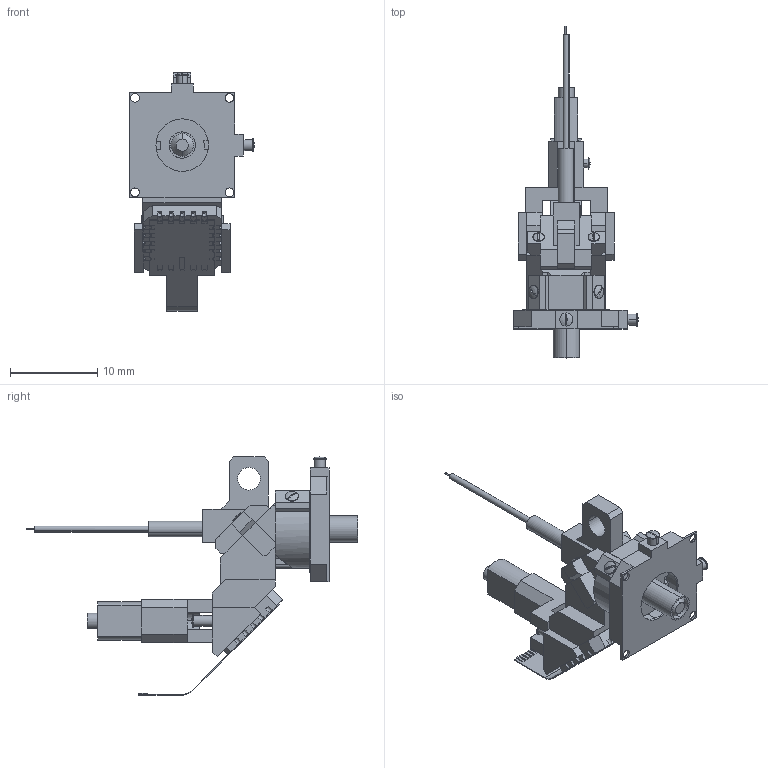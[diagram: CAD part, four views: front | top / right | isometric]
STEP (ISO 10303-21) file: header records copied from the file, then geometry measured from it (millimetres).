
FILE_DESCRIPTION (( 'STEP AP214' ), '1' );
FILE_NAME ('MINI2P_noTLens.STEP', '2022-09-28T07:59:19', ( '' ), ( '' ), 'SwSTEP 2.0', 'SolidWorks 2021', '' );
FILE_SCHEMA (( 'AUTOMOTIVE_DESIGN' ));
Length unit declared in the file: inch
Products named in the file (17): 103-ScopeBody P2 ; 30-TFB; 33-GlassFlange; 43-CollimatingLens___; 104-ScopeBody P3 ___; HC-920 Assembly; Scopebody adapter_V2_lateralshifting_ML-0000_AP0000___; 108-M1.2; MINI2P_noTLens; 102-ScopeBody P1 ___; 115-MEMS2000Hz; 109-ScanLens_D0166; 117-MEMSPCB; 108-M1.6; 111-Objective_D0213; 26-CollimatorHolder___; 106-Baseplate
Assembly tree (24 placements, depth 3):
  MINI2P_noTLens
    102-ScopeBody P1 ___
    109-ScanLens_D0166
    111-Objective_D0213
    104-ScopeBody P3 ___
    115-MEMS2000Hz
    103-ScopeBody P2 
    30-TFB
    117-MEMSPCB
    HC-920 Assembly
      33-GlassFlange
      26-CollimatorHolder___
      43-CollimatingLens___
    108-M1.2  x4
    108-M1.6  x6
    106-Baseplate
    Scopebody adapter_V2_lateralshifting_ML-0000_AP0000___
Bounding box: 14.25 x 37.94 x 27.23 mm (x, y, z)
Volume: 1196.4 mm3; surface area: 4075 mm2
Topology: 33 solids, 41 shells, 1135 faces, 3042 edges, 2001 vertices
Faces by surface type: plane 741, cylinder 290, cone 48, sphere 26, bspline 26, torus 4
Entity records: 43231 total; most frequent: CARTESIAN_POINT 7773, ORIENTED_EDGE 5648, DIRECTION 5267, EDGE_CURVE 2828, LINE 2095, VECTOR 2095, VERTEX_POINT 1879, AXIS2_PLACEMENT_3D 1586
